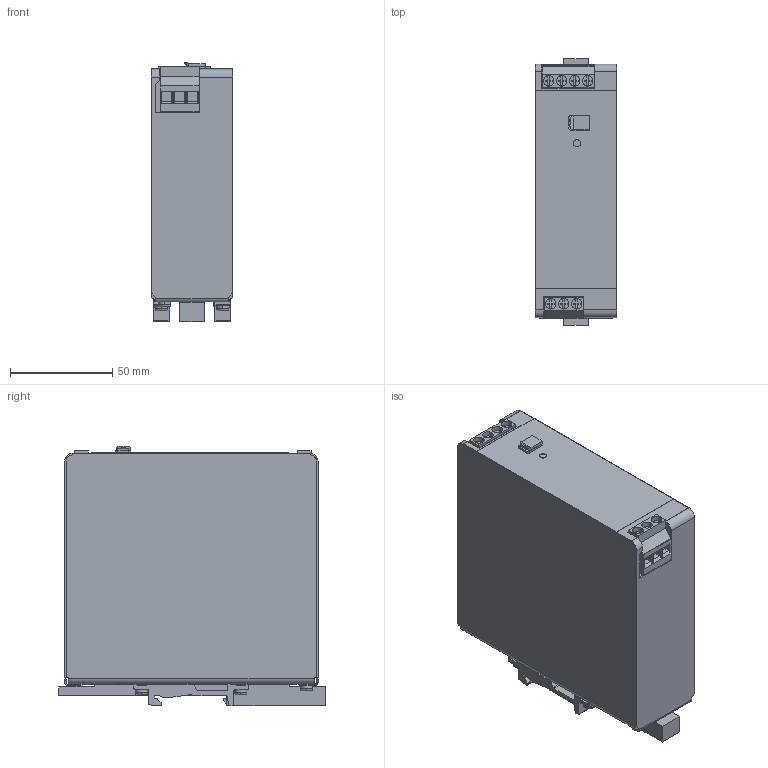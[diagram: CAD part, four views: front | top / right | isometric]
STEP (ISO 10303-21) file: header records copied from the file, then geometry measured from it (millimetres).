
FILE_DESCRIPTION( ( '' ), '1' );
FILE_NAME( '//expscmdclustefs.cadenas.external/client_exchange/iodir/jobs/output/wkb58025808_no0/STEP/DN4011_2_03.stp', '2013-05-15T08:13:26', ( '' ), ( '' ), ' ', ' ', ' ' );
FILE_SCHEMA( ( 'CONFIG_CONTROL_DESIGN' ) );
Length unit declared in the file: millimetre
Products named in the file (1): 1
Bounding box: 40 x 130.5 x 127.13 mm (x, y, z)
Volume: 572610.7 mm3; surface area: 72734.5 mm2
Topology: 1 solids, 2 shells, 553 faces, 1580 edges, 1044 vertices
Faces by surface type: plane 415, cylinder 126, torus 12
Entity records: 18132 total; most frequent: CARTESIAN_POINT 3324, ORIENTED_EDGE 3160, DIRECTION 2972, EDGE_CURVE 1580, LINE 1268, VECTOR 1268, VERTEX_POINT 1044, AXIS2_PLACEMENT_3D 852
